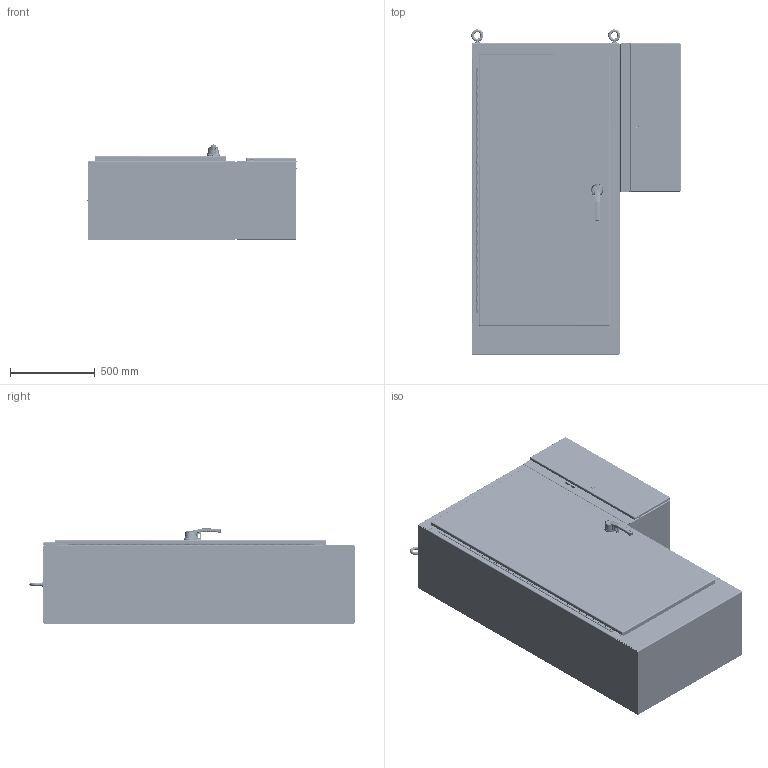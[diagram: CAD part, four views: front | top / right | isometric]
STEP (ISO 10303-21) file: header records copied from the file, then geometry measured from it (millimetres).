
FILE_DESCRIPTION (( 'STEP AP203' ), '1' );
FILE_NAME ('27931.step', '2015-01-12T13:00:51', ( 'admin' ), ( '' ), 'SwSTEP 2.0', 'SolidWorks 2010', '' );
FILE_SCHEMA (( 'CONFIG_CONTROL_DESIGN' ));
Products named in the file (108): 89109473; 87921200; 89079682; 87921186; 11158129_11158129; 89109068; 89109067; 99411211; 89079758; 87921144; 89079759; 87921120; 99402203_99402203; 27104003; 22112003_AFTER WELD; 32216001; 87573197; 87932883; 89079755; 87921280; 11158084; 99412095; 27301002; 26173002; 87751114_87751114; 89109474; 89109475_87924448; 26274015_26274015; 26273015_26273015; 27115001; 22318002; 27115004; 99401452; 23418001; 87567402_87567402; 87567417; 27155001; 87567421; 87566030; 87567412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
Assembly tree (165 placements, depth 6):
  27931
    99417126
    22131012
    87567402_87567402
      87568545  x2
      87567421
      87567417
      87568544
      27155001
      87567422
      87567414
      87566021_Compressed
      87566027_default
      87567412
      87566030
    11358033
      11358034
        89117596
        30101003
        30231005
          99404252
          99401524
          30231001
        22101001  x3
        11158979
          99401529
          99401527  x2
          11158978
        30176001_EXTENDED .81
        26151006
      11158216
    26274015_26274015  x2
      22318002
      26273015_26273015
      30101003
      27115001
    23418001
    99401452  x2
    17184_BBD
      89076399  x3
        89056623
        89076193
      87543026  x3
      87923733
      87930615  x3
        87929769_Installed on Pin
        87928711
      89108412
        89108417
          99401226_After Weld
          89108418
        89108413_87924180
          23271002_After Weld  x6
          89108414
        89108415
          45176001_45176001  x12
          99401226_After Weld  x6
          89108416
      87923729_18in
      89111814
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Bounding box: 1234.31 x 1914.78 x 559.61 mm (x, y, z)
Volume: 21099575.7 mm3; surface area: 18102748.9 mm2
Topology: 151 solids, 151 shells, 9667 faces, 24717 edges, 15614 vertices
Faces by surface type: plane 4032, cylinder 2377, bspline 2112, torus 744, cone 325, sphere 77
Entity records: 336011 total; most frequent: CARTESIAN_POINT 158213, ORIENTED_EDGE 37120, DIRECTION 29289, EDGE_CURVE 18560, VERTEX_POINT 11808, LINE 10079, VECTOR 10079, AXIS2_PLACEMENT_3D 9605
